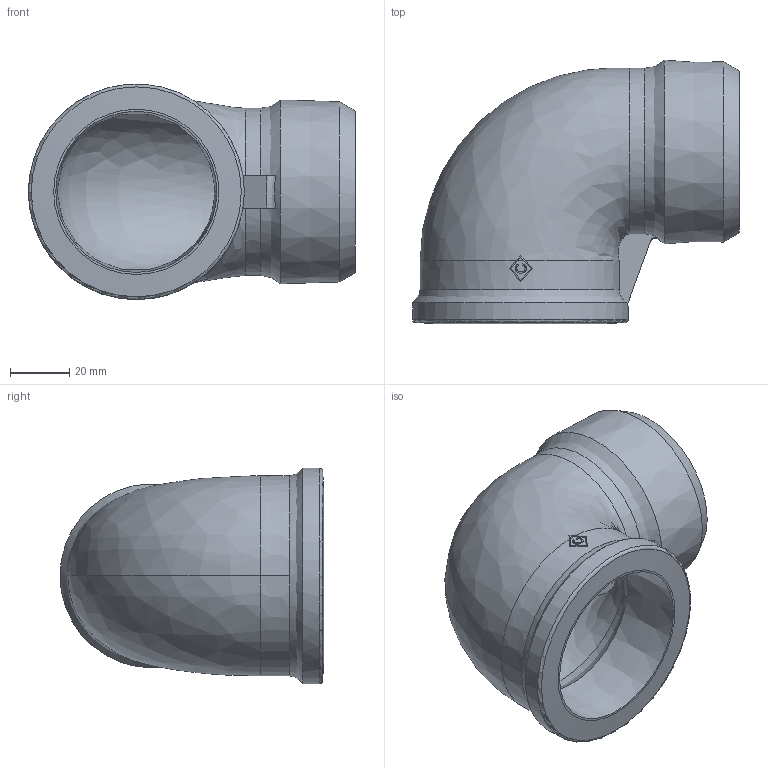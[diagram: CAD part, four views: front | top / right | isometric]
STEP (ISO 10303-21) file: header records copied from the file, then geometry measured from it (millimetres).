
FILE_DESCRIPTION((''),'2;1');
FILE_NAME('P:\Fastrack\53909_CRANE\Crane\Fig.152 M and F Elbow\New 2.00 inch\152-2.00.stp','2009-09-16T10:00:20',('btaylor'),(''),'Autodesk Inventor 2008','Autodesk Inventor 2008','');
FILE_SCHEMA(('AUTOMOTIVE_DESIGN { 1 0 10303 214 1 1 1 1 }'));
Length unit declared in the file: millimetre
Products named in the file (1): 152-2.00
Bounding box: 110.39 x 88.99 x 72.7 mm (x, y, z)
Volume: 117201.3 mm3; surface area: 45254.4 mm2
Topology: 1 solids, 1 shells, 46 faces, 162 edges, 118 vertices
Faces by surface type: bspline 26, plane 14, cone 4, torus 1, cylinder 1
Full cylindrical faces by diameter (mm): 72.8 x1
Entity records: 9741 total; most frequent: CARTESIAN_POINT 8574, ORIENTED_EDGE 310, EDGE_CURVE 155, DIRECTION 118, VERTEX_POINT 117, B_SPLINE_CURVE_WITH_KNOTS 106, EDGE_LOOP 54, AXIS2_PLACEMENT_3D 48
